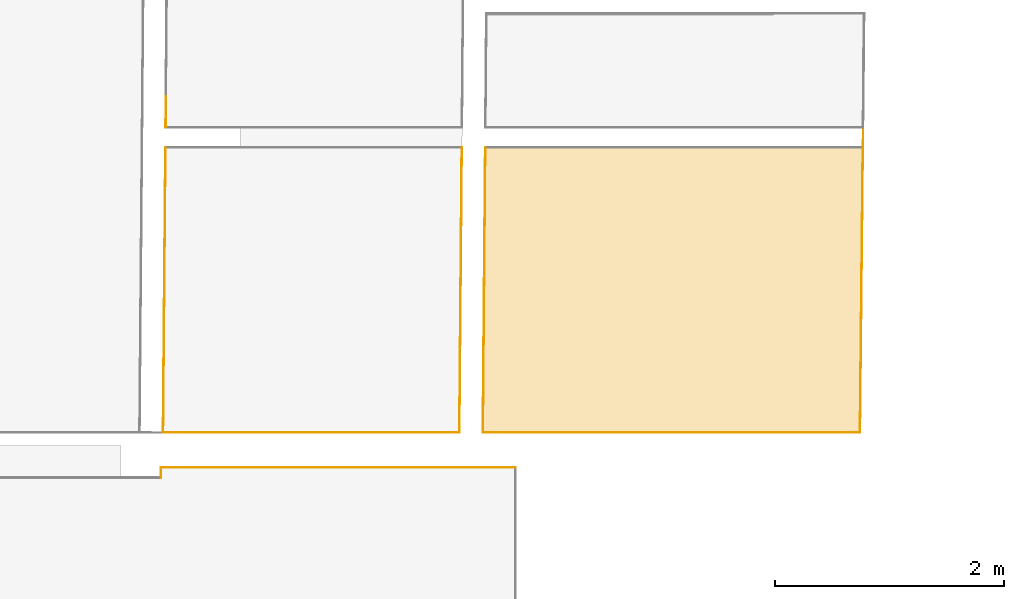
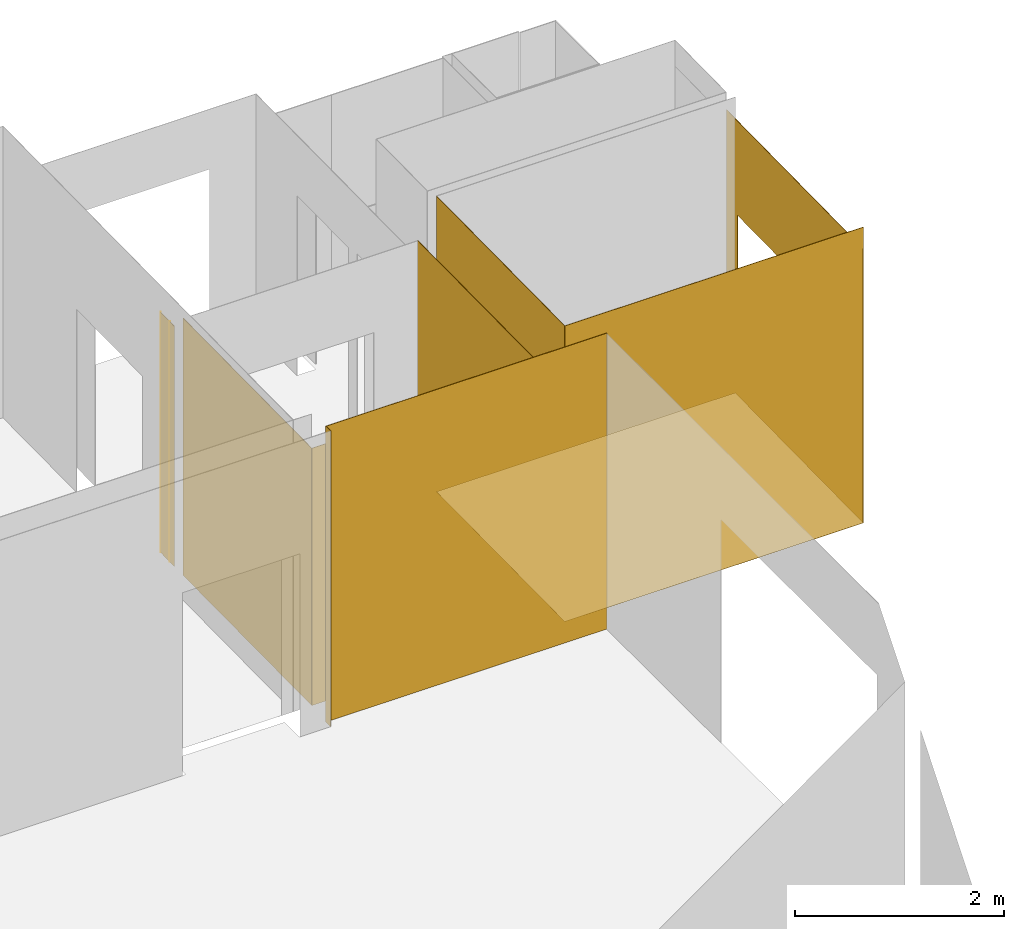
# One storey, part 27 of 33: 13 coverings, 1 opening.
"""IFC2X3 building model written with IfcOpenShell, lengths in millimetres."""

from ifc_helpers import new_model, entity, si_unit, converted_unit, derived_unit, money_unit, direction, frame, origin_with_axes, origin_2d_with_axis, place, context, subcontext, project, spatial, polyline, rectangle, outline, extrude, material, type_object, element, save


model = new_model("IFC2X3")

# Units and contexts
model_context = context("Model", 3, precision=0.01, world=origin_with_axes(), true_north=direction((0.0, 1.0)))
body_context = subcontext(model_context, "Body", "Model", "MODEL_VIEW")
ifc_project = project(units=[si_unit("LENGTHUNIT", "METRE", prefix="MILLI"), si_unit("AREAUNIT", "SQUARE_METRE"), si_unit("VOLUMEUNIT", "CUBIC_METRE"), converted_unit("PLANEANGLEUNIT", "DEGREE", entity("IfcPlaneAngleMeasure", 0.0174532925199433), si_unit("PLANEANGLEUNIT", "RADIAN"), dimensions=[0, 0, 0, 0, 0, 0, 0]), money_unit("EUR"), converted_unit("TIMEUNIT", "Year", entity("IfcTimeMeasure", 31556926.0), si_unit("TIMEUNIT", "SECOND"), dimensions=[0, 0, 1, 0, 0, 0, 0]), si_unit("MASSUNIT", "GRAM", prefix="KILO"), si_unit("THERMODYNAMICTEMPERATUREUNIT", "DEGREE_CELSIUS"), si_unit("LUMINOUSINTENSITYUNIT", "LUMEN"), si_unit("ENERGYUNIT", "JOULE", prefix="MEGA"), derived_unit("THERMALCONDUCTANCEUNIT", [(si_unit("POWERUNIT", "WATT"), 1), (si_unit("LENGTHUNIT", "METRE"), -1), (si_unit("THERMODYNAMICTEMPERATUREUNIT", "KELVIN"), -1)]), derived_unit("SPECIFICHEATCAPACITYUNIT", [(si_unit("ENERGYUNIT", "JOULE"), 1), (si_unit("MASSUNIT", "GRAM", prefix="KILO"), -1), (si_unit("THERMODYNAMICTEMPERATUREUNIT", "KELVIN"), -1)]), derived_unit("MASSDENSITYUNIT", [(si_unit("MASSUNIT", "GRAM", prefix="KILO"), 1), (si_unit("VOLUMEUNIT", "CUBIC_METRE"), -1)])], contexts=[model_context])

# Site, building, storey
site_placement = place(None, origin_with_axes())
site = spatial("IfcSite", under=ifc_project, at=site_placement, Name="Paldiski mnt 245/1, Tallinn, Harjumaa", CompositionType="COMPLEX")
building_placement = place(site_placement, origin_with_axes())
building = spatial("IfcBuilding", under=site, at=building_placement, Name="RKAS Hoone üldnimetus (kasutust iseloomustav) -> IFC Project Manager -> SOLIBRI", CompositionType="ELEMENT")
storey_placement = place(building_placement, origin_with_axes())
storey = spatial("IfcBuildingStorey", under=building, at=storey_placement, Name="Esimene korrus", CompositionType="ELEMENT", Elevation=0.0)

# Coverings
ifc_material_1 = material(Name="SA- Värv SM4(Niiskuskindel värv)")
covering_type_1 = type_object("IfcCoveringType", Name="SA- Värv SM4(Niiskuskindel värv) 5", PredefinedType="CLADDING")
covering_1_placement = place(storey_placement, frame((-53469.94741535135, 30139.82872435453, 0.0), z_axis=(0.0, 0.0, 1.0), x_axis=(1.0, 0.0, 0.0)))
element("IfcCovering", 1, at=covering_1_placement, inside=storey, type_object=covering_type_1, material=ifc_material_1, Name="SM4", PredefinedType="CLADDING", context=body_context, shape_type="SweptSolid", body=[
    extrude(outline(polyline([(0.0, 0.0), (2589.992998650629, 0.0), (2589.992998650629, 4.999999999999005), (5.042037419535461, 4.999999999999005), (0.0, 0.0)])), origin_with_axes(), (0.0, 0.0, 1.0), 3000.0),
])
covering_2_placement = place(storey_placement, frame((-50879.95441670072, 30139.82872435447, 0.0), z_axis=(0.0, 0.0, 1.0), x_axis=(0.008372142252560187, 0.9999649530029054, 0.0)))
element("IfcCovering", 2, at=covering_2_placement, inside=storey, type_object=covering_type_1, material=ifc_material_1, Name="SM4", PredefinedType="CLADDING", context=body_context, shape_type="SweptSolid", body=[
    extrude(outline(polyline([(0.0, 0.0), (2490.484817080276, 0.0), (2490.484817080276, 4.999999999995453), (-0.04186217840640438, 5.000000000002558), (0.0, 0.0)])), origin_with_axes(), (0.0, 0.0, 1.0), 3000.0),
])
covering_3_placement = place(storey_placement, frame((-53449.09672218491, 32630.22625742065, 0.0), z_axis=(0.0, 0.0, 1.0), x_axis=(-0.008372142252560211, -0.9999649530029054, 0.0)))
element("IfcCovering", 3, at=covering_3_placement, inside=storey, type_object=covering_type_1, material=ifc_material_1, Name="SM4", PredefinedType="CLADDING", context=body_context, shape_type="SweptSolid", body=[
    extrude(outline(polyline([(0.0, 0.0), (2490.484817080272, 0.0), (2490.442954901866, 4.999999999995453), (-0.04186217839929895, 5.000000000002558), (0.0, 0.0)])), origin_with_axes(), (0.0, 0.0, 1.0), 3000.0),
])
covering_4_placement = place(storey_placement, frame((-53445.41688893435, 33069.74510678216, 0.0), z_axis=(0.0, 0.0, 1.0), x_axis=(0.9999649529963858, -0.008372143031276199, 0.0)))
element("IfcCovering", 4, at=covering_4_placement, inside=storey, type_object=covering_type_1, material=ifc_material_1, Name="SM4", PredefinedType="CLADDING", context=body_context, shape_type="SweptSolid", body=[
    extrude(outline(polyline([(5.00000003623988, 5.00000003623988), (2.604648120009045, 2.50000001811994), (5.209296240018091, 5.00000003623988), (5.00000003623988, 5.00000003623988)])), origin_with_axes(), (0.0, 0.0, 1.0), 2800.0),
])
covering_5_placement = place(storey_placement, frame((-53445.20760002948, 33069.7433545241, 0.0), z_axis=(0.0, 0.0, 1.0), x_axis=(-0.008372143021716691, -0.9999649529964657, 0.0)))
element("IfcCovering", 5, at=covering_5_placement, inside=storey, type_object=covering_type_1, material=ifc_material_1, Name="SM4", PredefinedType="CLADDING", context=body_context, shape_type="SweptSolid", body=[
    extrude(outline(polyline([(0.0, 0.0), (170.715104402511, 0.0), (175.7151044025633, 4.999999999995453), (-4.999999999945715, 5.000000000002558), (0.0, 0.0)])), origin_with_axes(), (0.0, 0.0, 1.0), 2800.0),
])
covering_6_placement = place(storey_placement, frame((-53446.63685129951, 32899.03423317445, 0.0), z_axis=(0.0, 0.0, 1.0), x_axis=(-0.9999649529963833, 0.008372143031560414, 0.0)))
element("IfcCovering", 6, at=covering_6_placement, inside=storey, type_object=covering_type_1, material=ifc_material_1, Name="SM4", PredefinedType="CLADDING", context=body_context, shape_type="SweptSolid", body=[
    extrude(outline(polyline([(-5.000000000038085, 5.00000003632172), (-2.395351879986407, 2.50000001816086), (-4.790703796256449, 5.00000003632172), (-5.000000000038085, 5.00000003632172)])), origin_with_axes(), (0.0, 0.0, 1.0), 2800.0),
])
covering_7_placement = place(storey_placement, frame((-53446.84614020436, 32899.03598543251, 0.0), z_axis=(0.0, 0.0, 1.0), x_axis=(-0.008372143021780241, -0.9999649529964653, 0.0)))
element("IfcCovering", 7, at=covering_7_placement, inside=storey, type_object=covering_type_1, material=ifc_material_1, Name="SM4", PredefinedType="CLADDING", context=body_context, shape_type="SweptSolid", body=[
    extrude(outline(polyline([(0.0, 0.0), (98.81319111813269, 0.0), (93.77115369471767, 4.999999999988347), (5.000000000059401, 4.999999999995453), (0.0, 0.0)])), origin_with_axes(), (0.0, 0.0, 1.0), 2800.0),
])
covering_8_placement = place(storey_placement, frame((-50389.99999999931, 29839.82872435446, 0.0), z_axis=(0.0, 0.0, 1.0), x_axis=(-1.0, 0.0, 0.0)))
element("IfcCovering", 8, at=covering_8_placement, inside=storey, type_object=covering_type_1, material=ifc_material_1, Name="SM4", PredefinedType="CLADDING", context=body_context, shape_type="SweptSolid", body=[
    extrude(outline(polyline([(0.0, 0.0), (3100.000000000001, 0.0), (3094.999999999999, 4.999999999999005), (0.0, 4.999999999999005), (0.0, 0.0)])), origin_with_axes(), (0.0, 0.0, 1.0), 3450.0),
])
covering_9_placement = place(storey_placement, frame((-53489.99999999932, 29839.82872435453, 0.0), z_axis=(0.0, 0.0, 1.0), x_axis=(0.0, -1.0, 0.0)))
element("IfcCovering", 9, at=covering_9_placement, inside=storey, type_object=covering_type_1, material=ifc_material_1, Name="SM4", PredefinedType="CLADDING", context=body_context, shape_type="SweptSolid", body=[
    extrude(outline(polyline([(0.0, 0.0), (90.00000000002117, 0.0), (95.00000000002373, 5.000000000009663), (5.000000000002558, 5.000000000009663), (0.0, 0.0)])), origin_with_axes(), (0.0, 0.0, 1.0), 3450.0),
])
ifc_material_2 = material(Name="SA- PM-8 EPO lakk")
covering_type_2 = type_object("IfcCoveringType", Name="SA- PM-8 EPO lakk 1", PredefinedType="FLOORING")
covering_10_placement = place(storey_placement, frame((-50679.94742765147, 30139.82872435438, 0.0), z_axis=(0.0, 0.0, 1.0), x_axis=(1.0, 0.0, 0.0)))
element("IfcCovering", 10, at=covering_10_placement, inside=storey, type_object=covering_type_2, material=ifc_material_2, Name="PM-8", PredefinedType="FLOORING", context=body_context, shape_type="SweptSolid", body=[
    extrude(outline(polyline([(0.0, 0.0), (3294.489211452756, 0.0), (3319.596962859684, 2490.397516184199), (20.85071634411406, 2490.397516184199), (0.0, 0.0)])), origin_with_axes(), (0.0, 0.0, 1.0), 1.0),
])
ifc_material_3 = material(Name="SA- Värv SM12(tolmutõke)")
covering_type_3 = type_object("IfcCoveringType", Name="SA- Värv SM12(tolmutõke) 5", PredefinedType="CLADDING")
covering_11_placement = place(storey_placement, frame((-50659.10570453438, 32629.15465000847, 0.0), z_axis=(0.0, 0.0, 1.0), x_axis=(-0.008372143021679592, -0.999964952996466, 0.0)))
element("IfcCovering", 11, at=covering_11_placement, inside=storey, type_object=covering_type_3, material=ifc_material_3, Name="SM12", PredefinedType="CLADDING", context=body_context, shape_type="SweptSolid", body=[
    extrude(outline(polyline([(0.0, 0.0), (2489.413172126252, 0.0), (2489.371309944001, 5.000000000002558), (4.956702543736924, 4.999999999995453), (0.0, 0.0)])), origin_with_axes(), (0.0, 0.0, 1.0), 3450.0),
])

# Covering, opening
covering_12_placement = place(storey_placement, frame((-47385.45823987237, 30139.82872435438, 0.0), z_axis=(0.0, 0.0, 1.0), x_axis=(0.01008132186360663, 0.999949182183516, 0.0)))
covering_12 = element("IfcCovering", 12, at=covering_12_placement, inside=storey, type_object=covering_type_3, material=ifc_material_3, Name="SM12", PredefinedType="CLADDING", context=body_context, shape_type="SweptSolid", body=[
    extrude(outline(polyline([(0.0, 0.0), (2660.532735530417, 0.0), (2490.473686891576, 4.999999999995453), (-0.05040917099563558, 4.999999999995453), (0.0, 0.0)])), origin_with_axes(), (0.0, 0.0, 1.0), 3200.0),
])
opening_placement = place(covering_12_placement, frame((-29660.58902789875, -47686.89952863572, 0.0), z_axis=(0.0, 0.0, 1.0), x_axis=(0.01008132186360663, -0.999949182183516, 0.0)))
element("IfcOpeningElement", 13, at=opening_placement, cuts=covering_12, Name="AVA", ObjectType="OPENING", context=body_context, shape_type="SweptSolid", body=[
    extrude(rectangle(XDim=1500.0, YDim=2100.0, at=origin_2d_with_axis()), frame((-47330.24294391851, 31829.882062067, 1050.0), z_axis=(0.999949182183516, -0.01008132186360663, 0.0), x_axis=(0.01008132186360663, 0.999949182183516, 0.0)), (0.0, 0.0, -1.0), 90.32715302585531),
])

# Covering
covering_13_placement = place(storey_placement, frame((-50679.94742765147, 30139.82872435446, 0.0), z_axis=(0.0, 0.0, 1.0), x_axis=(1.0, 0.0, 0.0)))
element("IfcCovering", 14, at=covering_13_placement, inside=storey, type_object=covering_type_3, material=ifc_material_3, Name="SM12", PredefinedType="CLADDING", context=body_context, shape_type="SweptSolid", body=[
    extrude(outline(polyline([(0.0, 0.0), (3294.489187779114, 0.0), (3294.539596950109, 4.999999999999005), (0.0, 4.999999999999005), (0.0, 0.0)])), origin_with_axes(), (0.0, 0.0, 1.0), 3450.0),
])

save(model, "model.ifc")
